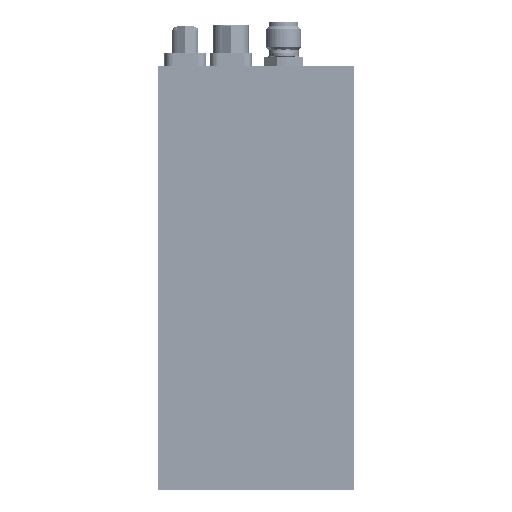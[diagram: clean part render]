
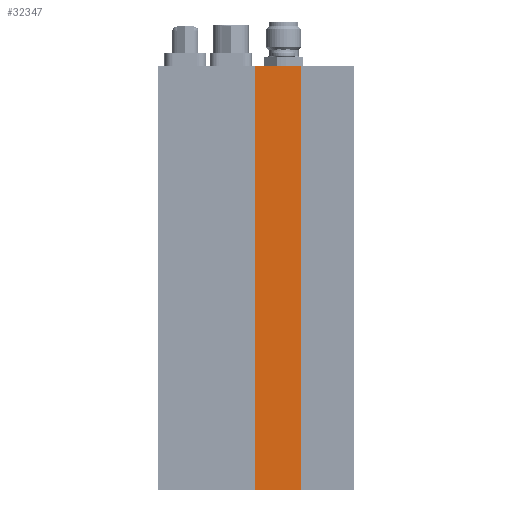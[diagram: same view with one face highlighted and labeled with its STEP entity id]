
A CAD part, left-side view. The second image highlights one B-rep face of the part: STEP entity #32347.
In plain terms, the highlighted planar face has unit normal (-1, 0, 0) as drawn and (1, 0, 0) by its records, which use the part's own axes.
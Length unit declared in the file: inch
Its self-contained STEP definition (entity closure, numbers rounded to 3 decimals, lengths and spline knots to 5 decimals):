
#228 = EDGE_CURVE ( 'NONE', #35282, #44949, #1083, .T. ) ;
#1083 = LINE ( 'NONE', #98971, #80613 ) ;
#9365 = VECTOR ( 'NONE', #68310, 39.37008 ) ;
#15225 = VECTOR ( 'NONE', #87810, 39.37008 ) ;
#15827 = LINE ( 'NONE', #120459, #9365 ) ;
#25736 = CARTESIAN_POINT ( 'NONE',  ( 1., 0.327, 1.5 ) ) ;
#26218 = CARTESIAN_POINT ( 'NONE',  ( 1., 0.327, 1.5 ) ) ;
#28250 = VECTOR ( 'NONE', #52269, 39.37008 ) ;
#32347 = ADVANCED_FACE ( 'NONE', ( #83570 ), #47083, .F. ) ;
#34731 = LINE ( 'NONE', #41829, #28250 ) ;
#35282 = VERTEX_POINT ( 'NONE', #85548 ) ;
#36886 = DIRECTION ( 'NONE',  ( 0., -1., 0. ) ) ;
#41829 = CARTESIAN_POINT ( 'NONE',  ( 1., 0.327, -1.5 ) ) ;
#44949 = VERTEX_POINT ( 'NONE', #99965 ) ;
#45591 = ORIENTED_EDGE ( 'NONE', *, *, #52427, .T. ) ;
#47083 = PLANE ( 'NONE',  #88013 ) ;
#52269 = DIRECTION ( 'NONE',  ( 0., -1., 0. ) ) ;
#52427 = EDGE_CURVE ( 'NONE', #44949, #74869, #15827, .T. ) ;
#54816 = EDGE_CURVE ( 'NONE', #117032, #74869, #34731, .T. ) ;
#55064 = ORIENTED_EDGE ( 'NONE', *, *, #107599, .F. ) ;
#57504 = DIRECTION ( 'NONE',  ( -1., 0., 0. ) ) ;
#68310 = DIRECTION ( 'NONE',  ( 0., 0., -1. ) ) ;
#70246 = EDGE_LOOP ( 'NONE', ( #45591, #76245, #55064, #121536 ) ) ;
#74869 = VERTEX_POINT ( 'NONE', #109632 ) ;
#76245 = ORIENTED_EDGE ( 'NONE', *, *, #54816, .F. ) ;
#80161 = CARTESIAN_POINT ( 'NONE',  ( 1., 0.327, -1.5 ) ) ;
#80613 = VECTOR ( 'NONE', #36886, 39.37008 ) ;
#83570 = FACE_OUTER_BOUND ( 'NONE', #70246, .T. ) ;
#85548 = CARTESIAN_POINT ( 'NONE',  ( 1., 0.327, 1.5 ) ) ;
#87810 = DIRECTION ( 'NONE',  ( 0., 0., -1. ) ) ;
#88013 = AXIS2_PLACEMENT_3D ( 'NONE', #26218, #57504, #130054 ) ;
#94724 = LINE ( 'NONE', #25736, #15225 ) ;
#98971 = CARTESIAN_POINT ( 'NONE',  ( 1., 0.327, 1.5 ) ) ;
#99965 = CARTESIAN_POINT ( 'NONE',  ( 1., 0., 1.5 ) ) ;
#107599 = EDGE_CURVE ( 'NONE', #35282, #117032, #94724, .T. ) ;
#109632 = CARTESIAN_POINT ( 'NONE',  ( 1., 0., -1.5 ) ) ;
#117032 = VERTEX_POINT ( 'NONE', #80161 ) ;
#120459 = CARTESIAN_POINT ( 'NONE',  ( 1., 0., 1.5 ) ) ;
#121536 = ORIENTED_EDGE ( 'NONE', *, *, #228, .T. ) ;
#130054 = DIRECTION ( 'NONE',  ( 0., 0., 1. ) ) ;
